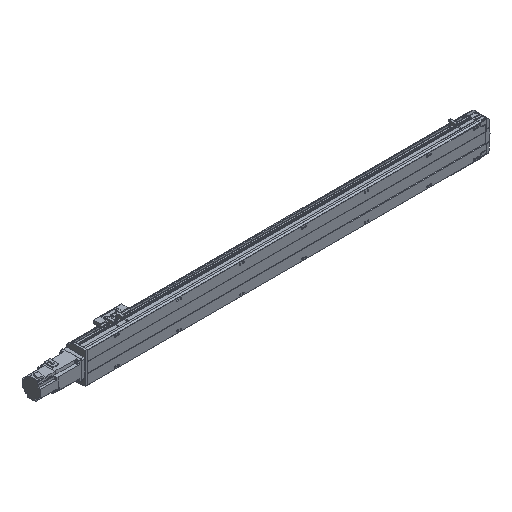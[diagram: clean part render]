
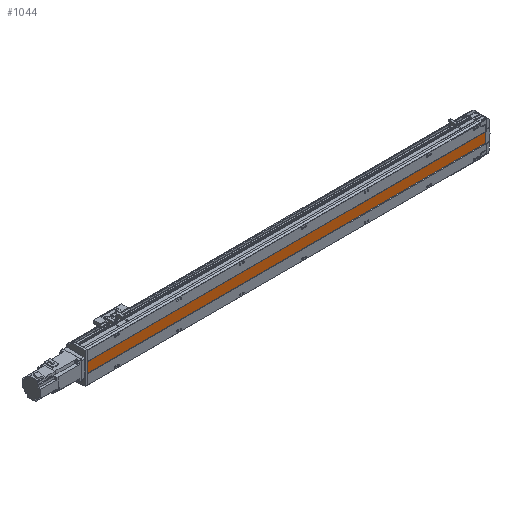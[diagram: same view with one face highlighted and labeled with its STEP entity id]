
A CAD part, isometric view. The second image highlights one B-rep face of the part: STEP entity #1044.
In plain terms, the highlighted planar face has unit normal (0, -1, 0).
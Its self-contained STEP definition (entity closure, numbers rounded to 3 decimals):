
#1044 = ADVANCED_FACE( '', ( #2679 ), #2680, .F. );
#2679 = FACE_OUTER_BOUND( '', #5176, .T. );
#2680 = PLANE( '', #5177 );
#5176 = EDGE_LOOP( '', ( #7979, #7980, #7981, #7982 ) );
#5177 = AXIS2_PLACEMENT_3D( '', #7983, #7984, #7985 );
#7979 = ORIENTED_EDGE( '', *, *, #14450, .F. );
#7980 = ORIENTED_EDGE( '', *, *, #14451, .T. );
#7981 = ORIENTED_EDGE( '', *, *, #14452, .T. );
#7982 = ORIENTED_EDGE( '', *, *, #14453, .F. );
#7983 = CARTESIAN_POINT( '', ( 1297., 1., 16. ) );
#7984 = DIRECTION( '', ( 0., 1., 0. ) );
#7985 = DIRECTION( '', ( 0., 0., 1. ) );
#14450 = EDGE_CURVE( '', #17285, #17286, #17287, .T. );
#14451 = EDGE_CURVE( '', #17285, #17288, #17289, .T. );
#14452 = EDGE_CURVE( '', #17288, #17290, #17291, .T. );
#14453 = EDGE_CURVE( '', #17286, #17290, #17292, .T. );
#17285 = VERTEX_POINT( '', #21388 );
#17286 = VERTEX_POINT( '', #21389 );
#17287 = LINE( '', #21390, #21391 );
#17288 = VERTEX_POINT( '', #21392 );
#17289 = LINE( '', #21393, #21394 );
#17290 = VERTEX_POINT( '', #21395 );
#17291 = LINE( '', #21396, #21397 );
#17292 = LINE( '', #21398, #21399 );
#21388 = CARTESIAN_POINT( '', ( 1283.5, 1., 16. ) );
#21389 = CARTESIAN_POINT( '', ( 1283.5, 1., -16. ) );
#21390 = CARTESIAN_POINT( '', ( 1283.5, 1., 16. ) );
#21391 = VECTOR( '', #26772, 1000. );
#21392 = CARTESIAN_POINT( '', ( 6., 1., 16. ) );
#21393 = CARTESIAN_POINT( '', ( 1297., 1., 16. ) );
#21394 = VECTOR( '', #26773, 1000. );
#21395 = CARTESIAN_POINT( '', ( 6., 1., -16. ) );
#21396 = CARTESIAN_POINT( '', ( 6., 1., 16. ) );
#21397 = VECTOR( '', #26774, 1000. );
#21398 = CARTESIAN_POINT( '', ( 1297., 1., -16. ) );
#21399 = VECTOR( '', #26775, 1000. );
#26772 = DIRECTION( '', ( 0., 0., -1. ) );
#26773 = DIRECTION( '', ( -1., 0., 0. ) );
#26774 = DIRECTION( '', ( 0., 0., -1. ) );
#26775 = DIRECTION( '', ( -1., 0., 0. ) );
